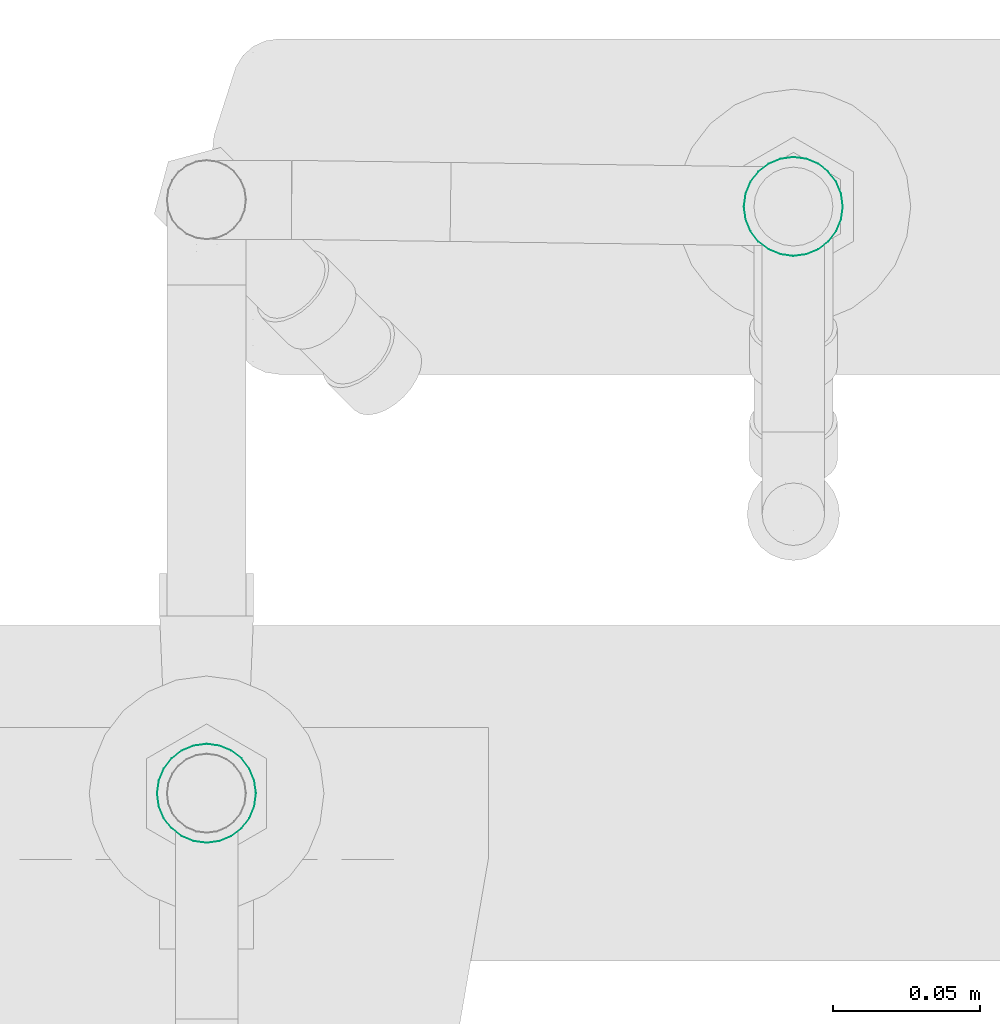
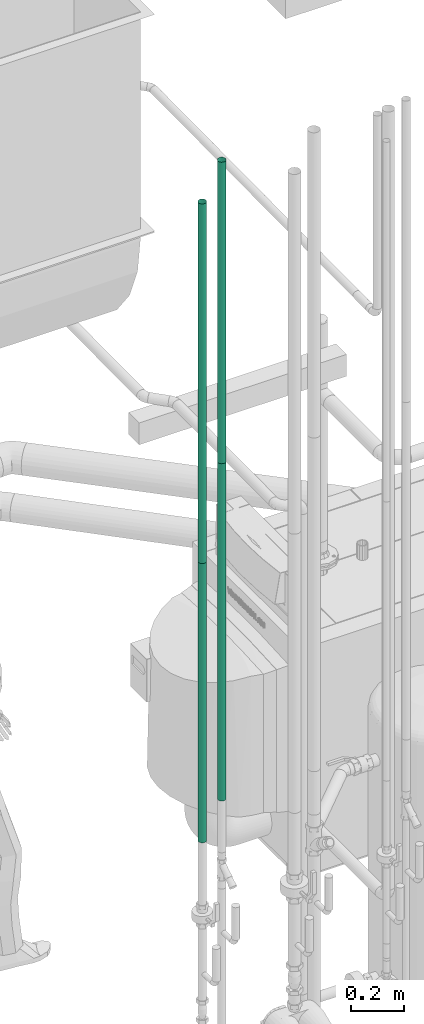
# One storey, part 6 of 374: 4 flow segments.
"""IFC2X3 building model written with IfcOpenShell, lengths in metres."""

import ifcopenshell
import ifcopenshell.guid

model = None  # the IFC model being written
_history = None  # IfcOwnerHistory: only IFC2X3 demands one
_inside = {}  # id of a spatial element -> (the spatial element, [elements in it])
_under = {}  # id of a project, library or spatial element -> (it, [spatial elements below it])
_declared = {}  # id of a project -> (the project, [libraries it declares])
_typed = {}  # id of a type object -> (the type object, [elements of that type])
_made_of = {}  # id of a material, layer set ... -> (it, [elements and type objects made of it])


def new_model(schema):
    """Start an empty IFC model of exactly this schema.

    Asked for "IFC4X3", IfcOpenShell would pick the latest addendum, in which some entities
    have other attributes; the version numbers below select the first issue.
    IFC2X3 requires an IfcOwnerHistory on every rooted entity: one is made here for all.
    """
    global model, _history
    if schema == "IFC4X3":
        model = ifcopenshell.file(schema_version=(4, 3, 0, 0))
    else:
        model = ifcopenshell.file(schema=schema)
    _inside.clear()
    _under.clear()
    _declared.clear()
    _typed.clear()
    _made_of.clear()
    _history = None
    if model.schema == "IFC2X3":
        org = make("IfcOrganization", Name="unknown")
        user = make(
            "IfcPersonAndOrganization",
            ThePerson=make("IfcPerson", FamilyName="unknown"),
            TheOrganization=org,
        )
        app = make(
            "IfcApplication",
            ApplicationDeveloper=org,
            Version="unknown",
            ApplicationFullName="unknown",
            ApplicationIdentifier="unknown",
        )
        _history = make(
            "IfcOwnerHistory",
            OwningUser=user,
            OwningApplication=app,
            ChangeAction="ADDED",
            CreationDate=0,
        )
    return model


def make(cls, **values):
    """One entity of the class cls with the attributes given. An attribute that is None is left unset."""
    return model.create_entity(
        cls, **{name: value for name, value in values.items() if value is not None}
    )


def rooted(cls, **values):
    """An entity with a GlobalId (a new one), such as an element, a storey or a relation."""
    return make(cls, GlobalId=ifcopenshell.guid.new(), OwnerHistory=_history, **values)


def si_unit(unit_type, name, prefix=None):
    """IfcSIUnit, for example si_unit("LENGTHUNIT", "METRE", prefix="MILLI")."""
    return make("IfcSIUnit", UnitType=unit_type, Prefix=prefix, Name=name)


def assignment(units):
    """IfcUnitAssignment: the units of a project."""
    return None if units is None else make("IfcUnitAssignment", Units=units)


def point(xyz):
    """IfcCartesianPoint."""
    return None if xyz is None else make("IfcCartesianPoint", Coordinates=xyz)


def direction(xyz):
    """IfcDirection."""
    return None if xyz is None else make("IfcDirection", DirectionRatios=xyz)


def frame(location, z_axis=None, x_axis=None):
    """IfcAxis2Placement3D, a coordinate frame: its origin and axes. An axis left out is left unset."""
    return make(
        "IfcAxis2Placement3D",
        Location=point(location),
        Axis=direction(z_axis),
        RefDirection=direction(x_axis),
    )


def origin():
    """The frame at (0, 0, 0) with its axes left unset."""
    return frame((0.0, 0.0, 0.0))


def place(relative_to, where):
    """IfcLocalPlacement: puts the frame where relative to a parent placement (None: the world)."""
    return make(
        "IfcLocalPlacement", PlacementRelTo=relative_to, RelativePlacement=where
    )


def context(
    kind, dimensions, precision=None, world=None, true_north=None, identifier=None
):
    """IfcGeometricRepresentationContext, for example the 3D "Model" context."""
    return make(
        "IfcGeometricRepresentationContext",
        ContextIdentifier=identifier,
        ContextType=kind,
        CoordinateSpaceDimension=dimensions,
        Precision=precision,
        WorldCoordinateSystem=world,
        TrueNorth=true_north,
    )


def subcontext(parent, identifier, kind, view, scale=None):
    """IfcGeometricRepresentationSubContext, for example "Body" below "Model"."""
    return make(
        "IfcGeometricRepresentationSubContext",
        ContextIdentifier=identifier,
        ContextType=kind,
        ParentContext=parent,
        TargetScale=scale,
        TargetView=view,
    )


def project(units=None, contexts=None):
    """IfcProject with its units and contexts."""
    return rooted(
        "IfcProject",
        Name="project",
        RepresentationContexts=contexts,
        UnitsInContext=assignment(units),
    )


def spatial(cls, under=None, at=None, **own):
    """A site, building, storey or space (cls), placed at a placement, below another one or the project."""
    s = rooted(cls, ObjectPlacement=at, **own)
    if under is not None:
        _under.setdefault(under.id(), (under, []))[1].append(s)
    return s


def faces_of(points, faces, orient=None, outer=None):
    """IfcFace entities. A face is a list of loops; a loop is a list of indices into points, from 0.

    orient and outer hold one flag for each loop. By default every Orientation is true, the
    first loop of a face is its IfcFaceOuterBound and the others are IfcFaceBound.
    """
    made = []
    for i, loops in enumerate(faces):
        bounds = []
        for j, loop in enumerate(loops):
            is_outer = j == 0 if outer is None else outer[i][j]
            bounds.append(
                make(
                    "IfcFaceOuterBound" if is_outer else "IfcFaceBound",
                    Bound=make("IfcPolyLoop", Polygon=[points[k] for k in loop]),
                    Orientation=True if orient is None else orient[i][j],
                )
            )
        made.append(make("IfcFace", Bounds=bounds))
    return made


def open_shell(faces, orient=None, outer=None):
    """The faces of one IfcOpenShell. surface_model builds it on its shared points."""
    return ("IfcOpenShell", faces, orient, outer)


def surface_model(cls, points, shells):
    """IfcFaceBasedSurfaceModel or IfcShellBasedSurfaceModel (cls): surfaces that need not close."""
    shared = [point(p) for p in points]
    made = [make(c, CfsFaces=faces_of(shared, fs, o, b)) for c, fs, o, b in shells]
    if cls == "IfcFaceBasedSurfaceModel":
        return make(cls, FbsmFaces=made)
    return make(cls, SbsmBoundary=made)


def shape(context_of_items, identifier, shape_type, items):
    """IfcShapeRepresentation: the items that make up one representation, for example the "Body"."""
    return make(
        "IfcShapeRepresentation",
        ContextOfItems=context_of_items,
        RepresentationIdentifier=identifier,
        RepresentationType=shape_type,
        Items=items,
    )


def source(mapping_origin, context_of_items, identifier, shape_type, items):
    """IfcRepresentationMap: a shape defined once, which mapped items show again and again."""
    return make(
        "IfcRepresentationMap",
        MappingOrigin=mapping_origin,
        MappedRepresentation=shape(context_of_items, identifier, shape_type, items),
    )


def transform(
    local_origin,
    x_axis=None,
    y_axis=None,
    z_axis=None,
    scale=None,
    scale2=None,
    scale3=None,
    uniform=True,
):
    """IfcCartesianTransformationOperator3D, or its non-uniform kind. x_axis, y_axis, z_axis: its Axis1, 2, 3."""
    if uniform:
        return make(
            "IfcCartesianTransformationOperator3D",
            Axis1=direction(x_axis),
            Axis2=direction(y_axis),
            LocalOrigin=point(local_origin),
            Scale=scale,
            Axis3=direction(z_axis),
        )
    return make(
        "IfcCartesianTransformationOperator3DnonUniform",
        Axis1=direction(x_axis),
        Axis2=direction(y_axis),
        LocalOrigin=point(local_origin),
        Scale=scale,
        Axis3=direction(z_axis),
        Scale2=scale2,
        Scale3=scale3,
    )


def mapped(mapping_source, mapping_target):
    """IfcMappedItem: shows the shape of a source again, moved by a transform."""
    return make(
        "IfcMappedItem", MappingSource=mapping_source, MappingTarget=mapping_target
    )


def made_of(thing, what):
    """Note that an element or type object is made of a material, layer set ...; save() writes the relation."""
    if what is not None:
        _made_of.setdefault(what.id(), (what, []))[1].append(thing)
    return thing


def element(
    cls,
    number,
    at=None,
    inside=None,
    cuts=None,
    type_object=None,
    material=None,
    context=None,
    identifier="Body",
    shape_type=None,
    held_by="IfcProductDefinitionShape",
    body=None,
    shapes=None,
    **own,
):
    """One element of the class cls, such as IfcWall. Its Tag is "e" and its number.

    at: its placement. inside: the storey or other place that contains it. cuts: it is an
    opening in that element (IfcRelVoidsElement). A single representation is given by context,
    identifier, shape_type and body (its items); several are given by shapes. held_by: the class
    of the entity that holds the representations. save() writes the other relations.
    """
    e = rooted(cls, Tag="e%d" % number, ObjectPlacement=at, **own)
    if body is not None:
        shapes = [shape(context, identifier, shape_type, body)]
    if shapes is not None:
        e.Representation = make(held_by, Representations=shapes)
    if inside is not None:
        _inside.setdefault(inside.id(), (inside, []))[1].append(e)
    if cuts is not None:
        rooted(
            "IfcRelVoidsElement", RelatingBuildingElement=cuts, RelatedOpeningElement=e
        )
    if type_object is not None:
        _typed.setdefault(type_object.id(), (type_object, []))[1].append(e)
    return made_of(e, material)


def aggregate(whole, parts):
    """IfcRelAggregates: a whole, such as a stair, and the parts it consists of."""
    return rooted("IfcRelAggregates", RelatingObject=whole, RelatedObjects=parts)


def save(model, path):
    """Write the relations noted so far, then the file.

    IfcRelAggregates (storeys below a building ...), IfcRelContainedInSpatialStructure (elements
    in a storey), IfcRelDefinesByType, IfcRelAssociatesMaterial and IfcRelDeclares: one each for
    every whole, place, type object, material and project.
    """
    for whole, parts in _under.values():
        aggregate(whole, parts)
    for where, things in _inside.values():
        rooted(
            "IfcRelContainedInSpatialStructure",
            RelatedElements=things,
            RelatingStructure=where,
        )
    for kind, things in _typed.values():
        rooted("IfcRelDefinesByType", RelatedObjects=things, RelatingType=kind)
    for what, things in _made_of.values():
        rooted("IfcRelAssociatesMaterial", RelatedObjects=things, RelatingMaterial=what)
    for by, libraries in _declared.values():
        rooted("IfcRelDeclares", RelatingContext=by, RelatedDefinitions=libraries)
    model.write(path)


model = new_model("IFC2X3")

# Units and contexts
model_context = context("Model", 3, precision=1e-05, world=origin(), true_north=direction((-0.4480736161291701, 0.8939966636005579)))
body_context = subcontext(model_context, "Body", "Model", "MODEL_VIEW")
ifc_project = project(units=[si_unit("LENGTHUNIT", "METRE"), si_unit("AREAUNIT", "SQUARE_METRE"), si_unit("VOLUMEUNIT", "CUBIC_METRE"), si_unit("PLANEANGLEUNIT", "RADIAN"), si_unit("THERMODYNAMICTEMPERATUREUNIT", "KELVIN"), si_unit("MASSUNIT", "GRAM", prefix="KILO"), si_unit("TIMEUNIT", "SECOND")], contexts=[model_context])

# Site, building, storey
site_placement = place(None, origin())
site = spatial("IfcSite", under=ifc_project, at=site_placement, Name="Site 1", CompositionType="ELEMENT")
building_placement = place(site_placement, origin())
building = spatial("IfcBuilding", under=site, at=building_placement, Name="Undefined", CompositionType="ELEMENT")
storey_placement = place(building_placement, origin())
storey = spatial("IfcBuildingStorey", under=building, at=storey_placement, Name="Rez de chauss\x8ee", CompositionType="ELEMENT", Elevation=0.0)

# Flow segments
shared_shape_1 = source(origin(), body_context, "Body", "SurfaceModel", [
    surface_model("IfcFaceBasedSurfaceModel", [(0.0, 0.004398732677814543, 0.0), (0.0, 0.0, 0.0), (1.2806734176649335, 8.8817842e-16, 0.0), (1.2806734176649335, 0.004398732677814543, 0.0), (0.0, -0.004248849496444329, -0.00113847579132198), (1.2806734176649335, -0.004248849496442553, -0.0011384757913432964), (0.0, -0.008058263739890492, -0.003337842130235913), (1.2806734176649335, -0.008058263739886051, -0.003337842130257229), (0.0, -0.01116863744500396, -0.0064482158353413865), (1.2806734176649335, -0.01116863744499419, -0.006448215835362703), (0.0, -0.013368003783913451, -0.010257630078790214), (1.2806734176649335, -0.013368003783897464, -0.010257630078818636), (0.0, -0.014506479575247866, -0.014506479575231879), (1.2806734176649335, -0.014506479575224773, -0.0145064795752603), (0.0, -0.01450647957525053, -0.01890521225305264), (1.2806734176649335, -0.014506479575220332, -0.018905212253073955), (0.0, -0.013368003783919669, -0.023154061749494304), (1.2806734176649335, -0.013368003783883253, -0.023154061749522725), (0.0, -0.011168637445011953, -0.02696347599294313), (1.2806734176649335, -0.011168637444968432, -0.026963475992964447), (0.0, -0.008058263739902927, -0.03007384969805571), (1.2806734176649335, -0.008058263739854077, -0.03007384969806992), (0.0, -0.004248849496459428, -0.03227321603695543), (1.2806734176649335, -0.004248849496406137, -0.03227321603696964), (0.0, -1.5099033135e-14, -0.03341169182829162), (1.2806734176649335, 3.8191672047e-14, -0.03341169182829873), (0.0, 0.00439873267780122, -0.03341169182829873), (1.2806734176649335, 0.004398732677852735, -0.03341169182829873), (0.0, 0.008647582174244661, -0.03227321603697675), (1.2806734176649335, 0.008647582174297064, -0.03227321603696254), (0.0, 0.012456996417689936, -0.030073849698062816), (1.2806734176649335, 0.012456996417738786, -0.0300738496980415), (0.0, 0.01556737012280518, -0.026963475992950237), (1.2806734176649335, 0.015567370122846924, -0.026963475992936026), (0.0, 0.017766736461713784, -0.023154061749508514), (1.2806734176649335, 0.01776673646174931, -0.023154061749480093), (0.0, 0.018905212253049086, -0.01890521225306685), (1.2806734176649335, 0.018905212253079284, -0.018905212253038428), (0.0, 0.018905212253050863, -0.01450647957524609), (1.2806734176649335, 0.01890521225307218, -0.014506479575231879), (0.0, 0.01776673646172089, -0.01025763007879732), (1.2806734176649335, 0.017766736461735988, -0.010257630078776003), (0.0, 0.015567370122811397, -0.006448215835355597), (1.2806734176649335, 0.015567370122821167, -0.006448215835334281), (0.0, 0.012456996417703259, -0.0033378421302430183), (1.2806734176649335, 0.012456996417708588, -0.003337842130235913), (0.0, 0.00864758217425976, -0.0011384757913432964), (1.2806734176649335, 0.00864758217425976, -0.0011384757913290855)], [open_shell([[[0, 1, 2, 3]], [[1, 4, 5, 2]], [[4, 6, 7, 5]], [[6, 8, 9, 7]], [[8, 10, 11, 9]], [[10, 12, 13, 11]], [[12, 14, 15, 13]], [[14, 16, 17, 15]], [[16, 18, 19, 17]], [[18, 20, 21, 19]], [[20, 22, 23, 21]], [[22, 24, 25, 23]], [[24, 26, 27, 25]], [[26, 28, 29, 27]], [[28, 30, 31, 29]], [[30, 32, 33, 31]], [[32, 34, 35, 33]], [[34, 36, 37, 35]], [[36, 38, 39, 37]], [[38, 40, 41, 39]], [[40, 42, 43, 41]], [[42, 44, 45, 43]], [[44, 46, 47, 45]], [[46, 0, 3, 47]]])]),
])
flow_segment_1_placement = place(storey_placement, origin())
element("IfcFlowSegment", 1, at=flow_segment_1_placement, inside=storey, Name="Tube acier d'après DIN 2448", ObjectType="Tube acier d'après DIN 2448", context=body_context, shape_type="MappedRepresentation", body=[
    mapped(shared_shape_1, transform((52.07383786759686, 10.722398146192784, 2.0695279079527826), x_axis=(0.0, 0.0, 1.0), y_axis=(0.13052619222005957, -0.9914448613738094, 0.0), z_axis=(0.9914448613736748, 0.13052619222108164, 0.0))),
])
shared_shape_2 = source(origin(), body_context, "Body", "SurfaceModel", [
    surface_model("IfcFaceBasedSurfaceModel", [(0.0, 0.004398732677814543, 0.0), (0.0, 0.0, 0.0), (1.5475720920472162, 0.0, 0.0), (1.5475720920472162, 0.004398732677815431, 0.0), (0.0, -0.004248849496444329, -0.00113847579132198), (1.5475720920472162, -0.004248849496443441, -0.0011384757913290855), (0.0, -0.008058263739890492, -0.003337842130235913), (1.5475720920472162, -0.008058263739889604, -0.003337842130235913), (0.0, -0.01116863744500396, -0.0064482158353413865), (1.5475720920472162, -0.011168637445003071, -0.006448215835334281), (0.0, -0.013368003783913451, -0.010257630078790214), (1.5475720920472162, -0.013368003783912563, -0.010257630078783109), (0.0, -0.014506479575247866, -0.014506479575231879), (1.5475720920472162, -0.014506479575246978, -0.014506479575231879), (0.0, -0.01450647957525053, -0.01890521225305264), (1.5475720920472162, -0.014506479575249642, -0.018905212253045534), (0.0, -0.013368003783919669, -0.023154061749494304), (1.5475720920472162, -0.01336800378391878, -0.023154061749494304), (0.0, -0.011168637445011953, -0.02696347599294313), (1.5475720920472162, -0.011168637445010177, -0.026963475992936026), (0.0, -0.008058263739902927, -0.03007384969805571), (1.5475720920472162, -0.008058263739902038, -0.030073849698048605), (0.0, -0.004248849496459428, -0.03227321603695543), (1.5475720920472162, -0.00424884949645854, -0.03227321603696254), (0.0, -1.5099033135e-14, -0.03341169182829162), (1.5475720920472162, -1.5099033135e-14, -0.03341169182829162), (0.0, 0.00439873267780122, -0.03341169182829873), (1.5475720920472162, 0.004398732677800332, -0.03341169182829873), (0.0, 0.008647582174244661, -0.03227321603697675), (1.5475720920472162, 0.008647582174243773, -0.03227321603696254), (0.0, 0.012456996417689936, -0.030073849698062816), (1.5475720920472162, 0.012456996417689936, -0.03007384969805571), (0.0, 0.01556737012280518, -0.026963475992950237), (1.5475720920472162, 0.015567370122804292, -0.026963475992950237), (0.0, 0.017766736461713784, -0.023154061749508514), (1.5475720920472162, 0.01776673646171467, -0.02315406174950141), (0.0, 0.018905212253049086, -0.01890521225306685), (1.5475720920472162, 0.018905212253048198, -0.018905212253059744), (0.0, 0.018905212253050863, -0.01450647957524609), (1.5475720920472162, 0.01890521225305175, -0.01450647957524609), (0.0, 0.01776673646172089, -0.01025763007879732), (1.5475720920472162, 0.01776673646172, -0.01025763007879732), (0.0, 0.015567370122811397, -0.006448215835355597), (1.5475720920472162, 0.015567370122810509, -0.006448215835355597), (0.0, 0.012456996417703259, -0.0033378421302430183), (1.5475720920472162, 0.01245699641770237, -0.0033378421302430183), (0.0, 0.00864758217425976, -0.0011384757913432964), (1.5475720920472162, 0.008647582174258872, -0.001138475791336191)], [open_shell([[[0, 1, 2, 3]], [[1, 4, 5, 2]], [[4, 6, 7, 5]], [[6, 8, 9, 7]], [[8, 10, 11, 9]], [[10, 12, 13, 11]], [[12, 14, 15, 13]], [[14, 16, 17, 15]], [[16, 18, 19, 17]], [[18, 20, 21, 19]], [[20, 22, 23, 21]], [[22, 24, 25, 23]], [[24, 26, 27, 25]], [[26, 28, 29, 27]], [[28, 30, 31, 29]], [[30, 32, 33, 31]], [[32, 34, 35, 33]], [[34, 36, 37, 35]], [[36, 38, 39, 37]], [[38, 40, 41, 39]], [[40, 42, 43, 41]], [[42, 44, 45, 43]], [[44, 46, 47, 45]], [[46, 0, 3, 47]]])]),
])
flow_segment_2_placement = place(storey_placement, origin())
element("IfcFlowSegment", 2, at=flow_segment_2_placement, inside=storey, Name="Tube acier d'après DIN 2448", ObjectType="Tube acier d'après DIN 2448", context=body_context, shape_type="MappedRepresentation", body=[
    mapped(shared_shape_2, transform((52.24128616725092, 10.913675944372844, 2.0695279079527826), x_axis=(0.0, 0.0, 1.0), y_axis=(-0.13052619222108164, 0.9914448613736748, 0.0), z_axis=(-0.9914448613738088, -0.13052619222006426, 0.0))),
])
shared_shape_3 = source(origin(), body_context, "Body", "SurfaceModel", [
    surface_model("IfcFaceBasedSurfaceModel", [(0.0, 0.004398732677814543, 0.0), (0.0, 0.0, 0.0), (1.3829000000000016, -8.8817842e-16, 0.0), (1.3829000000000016, 0.004398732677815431, 7.105427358e-15), (0.0, -0.004248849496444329, -0.00113847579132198), (1.3829000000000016, -0.0042488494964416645, -0.001138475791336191), (0.0, -0.008058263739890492, -0.003337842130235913), (1.3829000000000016, -0.008058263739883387, -0.0033378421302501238), (0.0, -0.01116863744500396, -0.0064482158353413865), (1.3829000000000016, -0.011168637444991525, -0.006448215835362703), (0.0, -0.013368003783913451, -0.010257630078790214), (1.3829000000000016, -0.013368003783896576, -0.01025763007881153), (0.0, -0.014506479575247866, -0.014506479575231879), (1.3829000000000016, -0.014506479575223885, -0.0145064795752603), (0.0, -0.01450647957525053, -0.01890521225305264), (1.3829000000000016, -0.014506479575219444, -0.01890521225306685), (0.0, -0.013368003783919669, -0.023154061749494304), (1.3829000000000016, -0.013368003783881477, -0.02315406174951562), (0.0, -0.011168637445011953, -0.02696347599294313), (1.3829000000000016, -0.011168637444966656, -0.026963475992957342), (0.0, -0.008058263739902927, -0.03007384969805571), (1.3829000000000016, -0.008058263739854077, -0.030073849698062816), (0.0, -0.004248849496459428, -0.03227321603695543), (1.3829000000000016, -0.004248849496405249, -0.03227321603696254), (0.0, -1.5099033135e-14, -0.03341169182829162), (1.3829000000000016, 3.8191672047e-14, -0.03341169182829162), (0.0, 0.00439873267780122, -0.03341169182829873), (1.3829000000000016, 0.004398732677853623, -0.03341169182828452), (0.0, 0.008647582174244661, -0.03227321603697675), (1.3829000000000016, 0.008647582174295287, -0.03227321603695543), (0.0, 0.012456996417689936, -0.030073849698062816), (1.3829000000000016, 0.01245699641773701, -0.0300738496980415), (0.0, 0.01556737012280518, -0.026963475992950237), (1.3829000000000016, 0.015567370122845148, -0.02696347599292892), (0.0, 0.017766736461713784, -0.023154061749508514), (1.3829000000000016, 0.017766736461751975, -0.023154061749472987), (0.0, 0.018905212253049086, -0.01890521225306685), (1.3829000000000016, 0.018905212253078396, -0.018905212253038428), (0.0, 0.018905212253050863, -0.01450647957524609), (1.3829000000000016, 0.018905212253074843, -0.014506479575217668), (0.0, 0.01776673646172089, -0.01025763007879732), (1.3829000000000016, 0.0177667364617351, -0.010257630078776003), (0.0, 0.015567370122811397, -0.006448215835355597), (1.3829000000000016, 0.015567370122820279, -0.006448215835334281), (0.0, 0.012456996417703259, -0.0033378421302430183), (1.3829000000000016, 0.0124569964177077, -0.0033378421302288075), (0.0, 0.00864758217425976, -0.0011384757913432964), (1.3829000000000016, 0.00864758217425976, -0.0011384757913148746)], [open_shell([[[0, 1, 2, 3]], [[1, 4, 5, 2]], [[4, 6, 7, 5]], [[6, 8, 9, 7]], [[8, 10, 11, 9]], [[10, 12, 13, 11]], [[12, 14, 15, 13]], [[14, 16, 17, 15]], [[16, 18, 19, 17]], [[18, 20, 21, 19]], [[20, 22, 23, 21]], [[22, 24, 25, 23]], [[24, 26, 27, 25]], [[26, 28, 29, 27]], [[28, 30, 31, 29]], [[30, 32, 33, 31]], [[32, 34, 35, 33]], [[34, 36, 37, 35]], [[36, 38, 39, 37]], [[38, 40, 41, 39]], [[40, 42, 43, 41]], [[42, 44, 45, 43]], [[44, 46, 47, 45]], [[46, 0, 3, 47]]])]),
])
flow_segment_3_placement = place(storey_placement, origin())
element("IfcFlowSegment", 3, at=flow_segment_3_placement, inside=storey, Name="Tube acier d'après DIN 2448", ObjectType="Tube acier d'après DIN 2448", context=body_context, shape_type="MappedRepresentation", body=[
    mapped(shared_shape_3, transform((52.24128616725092, 10.913675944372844, 3.6170999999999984), x_axis=(0.0, 0.0, 1.0), y_axis=(-0.13052619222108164, 0.9914448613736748, 0.0), z_axis=(-0.9914448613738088, -0.13052619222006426, 0.0))),
])
shared_shape_4 = source(origin(), body_context, "Body", "SurfaceModel", [
    surface_model("IfcFaceBasedSurfaceModel", [(0.0, 0.004398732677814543, 0.0), (0.0, 0.0, 0.0), (1.649798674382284, 0.0, 0.0), (1.649798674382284, 0.004398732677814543, 0.0), (0.0, -0.004248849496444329, -0.00113847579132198), (1.649798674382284, -0.004248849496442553, -0.0011384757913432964), (0.0, -0.008058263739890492, -0.003337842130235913), (1.649798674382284, -0.008058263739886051, -0.003337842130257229), (0.0, -0.01116863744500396, -0.0064482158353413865), (1.649798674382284, -0.01116863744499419, -0.006448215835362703), (0.0, -0.013368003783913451, -0.010257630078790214), (1.649798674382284, -0.013368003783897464, -0.010257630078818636), (0.0, -0.014506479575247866, -0.014506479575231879), (1.649798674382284, -0.014506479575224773, -0.0145064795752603), (0.0, -0.01450647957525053, -0.01890521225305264), (1.649798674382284, -0.014506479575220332, -0.018905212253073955), (0.0, -0.013368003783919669, -0.023154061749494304), (1.649798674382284, -0.013368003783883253, -0.023154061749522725), (0.0, -0.011168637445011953, -0.02696347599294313), (1.649798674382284, -0.011168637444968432, -0.026963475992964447), (0.0, -0.008058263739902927, -0.03007384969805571), (1.649798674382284, -0.008058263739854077, -0.03007384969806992), (0.0, -0.004248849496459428, -0.03227321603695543), (1.649798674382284, -0.004248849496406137, -0.03227321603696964), (0.0, -1.5099033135e-14, -0.03341169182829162), (1.649798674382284, 3.8191672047e-14, -0.03341169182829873), (0.0, 0.00439873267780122, -0.03341169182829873), (1.649798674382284, 0.004398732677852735, -0.03341169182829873), (0.0, 0.008647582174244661, -0.03227321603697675), (1.649798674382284, 0.008647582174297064, -0.03227321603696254), (0.0, 0.012456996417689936, -0.030073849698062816), (1.649798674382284, 0.012456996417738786, -0.0300738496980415), (0.0, 0.01556737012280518, -0.026963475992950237), (1.649798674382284, 0.015567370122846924, -0.026963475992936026), (0.0, 0.017766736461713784, -0.023154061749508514), (1.649798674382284, 0.01776673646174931, -0.023154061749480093), (0.0, 0.018905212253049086, -0.01890521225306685), (1.649798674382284, 0.018905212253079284, -0.018905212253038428), (0.0, 0.018905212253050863, -0.01450647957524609), (1.649798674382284, 0.01890521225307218, -0.014506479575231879), (0.0, 0.01776673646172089, -0.01025763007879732), (1.649798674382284, 0.017766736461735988, -0.010257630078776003), (0.0, 0.015567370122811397, -0.006448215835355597), (1.649798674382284, 0.015567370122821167, -0.006448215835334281), (0.0, 0.012456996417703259, -0.0033378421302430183), (1.649798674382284, 0.012456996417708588, -0.003337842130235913), (0.0, 0.00864758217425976, -0.0011384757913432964), (1.649798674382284, 0.00864758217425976, -0.0011384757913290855)], [open_shell([[[0, 1, 2, 3]], [[1, 4, 5, 2]], [[4, 6, 7, 5]], [[6, 8, 9, 7]], [[8, 10, 11, 9]], [[10, 12, 13, 11]], [[12, 14, 15, 13]], [[14, 16, 17, 15]], [[16, 18, 19, 17]], [[18, 20, 21, 19]], [[20, 22, 23, 21]], [[22, 24, 25, 23]], [[24, 26, 27, 25]], [[26, 28, 29, 27]], [[28, 30, 31, 29]], [[30, 32, 33, 31]], [[32, 34, 35, 33]], [[34, 36, 37, 35]], [[36, 38, 39, 37]], [[38, 40, 41, 39]], [[40, 42, 43, 41]], [[42, 44, 45, 43]], [[44, 46, 47, 45]], [[46, 0, 3, 47]]])]),
])
flow_segment_4_placement = place(storey_placement, origin())
element("IfcFlowSegment", 4, at=flow_segment_4_placement, inside=storey, Name="Tube acier d'après DIN 2448", ObjectType="Tube acier d'après DIN 2448", context=body_context, shape_type="MappedRepresentation", body=[
    mapped(shared_shape_4, transform((52.07383786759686, 10.722398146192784, 3.350201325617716), x_axis=(0.0, 0.0, 1.0), y_axis=(0.13052619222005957, -0.9914448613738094, 0.0), z_axis=(0.9914448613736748, 0.13052619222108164, 0.0))),
])

save(model, "model.ifc")
